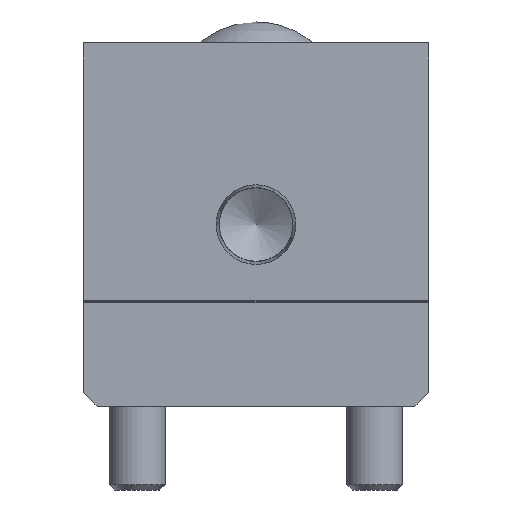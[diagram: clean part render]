
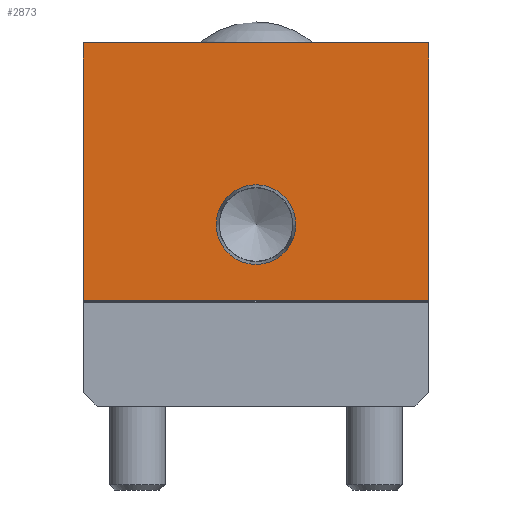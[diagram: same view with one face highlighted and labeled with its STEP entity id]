
A CAD part, front view. The second image highlights one B-rep face of the part: STEP entity #2873.
In plain terms, the highlighted planar face has unit normal (0, -1, 0).
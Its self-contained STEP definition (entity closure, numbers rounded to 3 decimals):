
#187=FACE_BOUND('',#646,.T.);
#266=CIRCLE('',#3057,5.704);
#432=FACE_OUTER_BOUND('',#645,.T.);
#645=EDGE_LOOP('',(#2102,#2103,#2104,#2105));
#646=EDGE_LOOP('',(#2106));
#919=LINE('',#4299,#1137);
#922=LINE('',#4304,#1140);
#924=LINE('',#4312,#1142);
#938=LINE('',#4348,#1156);
#1137=VECTOR('',#3469,36.9);
#1140=VECTOR('',#3474,49.5);
#1142=VECTOR('',#3482,36.9);
#1156=VECTOR('',#3526,49.5);
#1338=VERTEX_POINT('',#4296);
#1339=VERTEX_POINT('',#4298);
#1340=VERTEX_POINT('',#4302);
#1343=VERTEX_POINT('',#4310);
#1347=VERTEX_POINT('',#4324);
#1608=EDGE_CURVE('',#1339,#1338,#919,.T.);
#1611=EDGE_CURVE('',#1338,#1340,#922,.T.);
#1615=EDGE_CURVE('',#1343,#1340,#924,.T.);
#1620=EDGE_CURVE('',#1347,#1347,#266,.T.);
#1633=EDGE_CURVE('',#1343,#1339,#938,.T.);
#2102=ORIENTED_EDGE('',*,*,#1633,.T.);
#2103=ORIENTED_EDGE('',*,*,#1608,.T.);
#2104=ORIENTED_EDGE('',*,*,#1611,.T.);
#2105=ORIENTED_EDGE('',*,*,#1615,.F.);
#2106=ORIENTED_EDGE('',*,*,#1620,.T.);
#2593=PLANE('',#3090);
#2873=ADVANCED_FACE('',(#432,#187),#2593,.T.);
#3057=AXIS2_PLACEMENT_3D('',#4325,#3497,#3498);
#3090=AXIS2_PLACEMENT_3D('',#4386,#3580,#3581);
#3469=DIRECTION('',(0.,0.,1.));
#3474=DIRECTION('',(-1.,0.,0.));
#3482=DIRECTION('',(0.,0.,1.));
#3497=DIRECTION('center_axis',(0.,1.,0.));
#3498=DIRECTION('ref_axis',(1.,0.,0.));
#3526=DIRECTION('',(1.,0.,0.));
#3580=DIRECTION('center_axis',(0.,-1.,0.));
#3581=DIRECTION('ref_axis',(0.,0.,-1.));
#4296=CARTESIAN_POINT('',(24.75,0.,52.));
#4298=CARTESIAN_POINT('',(24.75,0.,15.1));
#4299=CARTESIAN_POINT('',(24.75,0.,0.));
#4302=CARTESIAN_POINT('',(-24.75,0.,52.));
#4304=CARTESIAN_POINT('',(24.75,0.,52.));
#4310=CARTESIAN_POINT('',(-24.75,0.,15.1));
#4312=CARTESIAN_POINT('',(-24.75,0.,0.));
#4324=CARTESIAN_POINT('',(5.704,0.,26.));
#4325=CARTESIAN_POINT('Origin',(0.,0.,26.));
#4348=CARTESIAN_POINT('',(24.75,0.,15.1));
#4386=CARTESIAN_POINT('Origin',(24.75,0.,0.));
